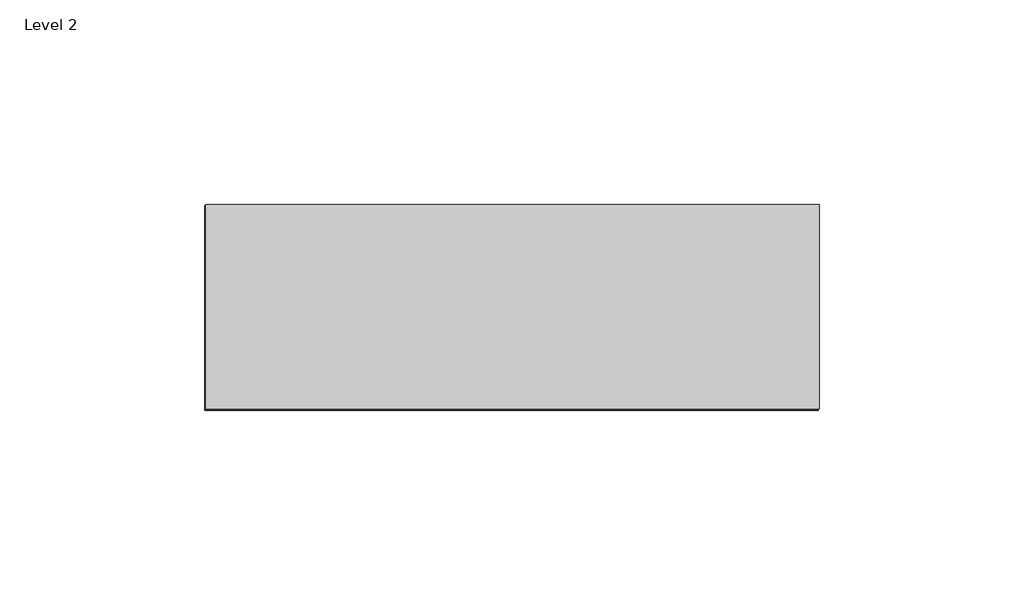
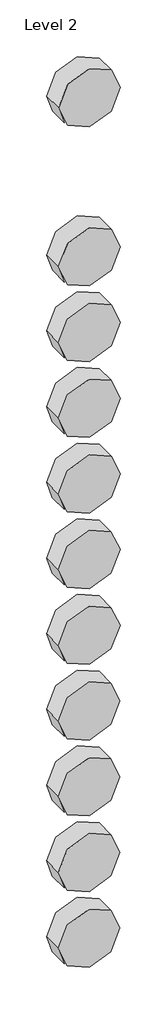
# One storey: 11 proxies.
"""IFC4 building model written with IfcOpenShell, lengths in millimetres."""

import ifcopenshell
import ifcopenshell.guid

model = None  # the IFC model being written
_history = None  # IfcOwnerHistory: only IFC2X3 demands one
_inside = {}  # id of a spatial element -> (the spatial element, [elements in it])
_under = {}  # id of a project, library or spatial element -> (it, [spatial elements below it])
_declared = {}  # id of a project -> (the project, [libraries it declares])
_typed = {}  # id of a type object -> (the type object, [elements of that type])
_made_of = {}  # id of a material, layer set ... -> (it, [elements and type objects made of it])


def new_model(schema):
    """Start an empty IFC model of exactly this schema.

    Asked for "IFC4X3", IfcOpenShell would pick the latest addendum, in which some entities
    have other attributes; the version numbers below select the first issue.
    IFC2X3 requires an IfcOwnerHistory on every rooted entity: one is made here for all.
    """
    global model, _history
    if schema == "IFC4X3":
        model = ifcopenshell.file(schema_version=(4, 3, 0, 0))
    else:
        model = ifcopenshell.file(schema=schema)
    _inside.clear()
    _under.clear()
    _declared.clear()
    _typed.clear()
    _made_of.clear()
    _history = None
    if model.schema == "IFC2X3":
        org = make("IfcOrganization", Name="unknown")
        user = make(
            "IfcPersonAndOrganization",
            ThePerson=make("IfcPerson", FamilyName="unknown"),
            TheOrganization=org,
        )
        app = make(
            "IfcApplication",
            ApplicationDeveloper=org,
            Version="unknown",
            ApplicationFullName="unknown",
            ApplicationIdentifier="unknown",
        )
        _history = make(
            "IfcOwnerHistory",
            OwningUser=user,
            OwningApplication=app,
            ChangeAction="ADDED",
            CreationDate=0,
        )
    return model


def make(cls, **values):
    """One entity of the class cls with the attributes given. An attribute that is None is left unset."""
    return model.create_entity(
        cls, **{name: value for name, value in values.items() if value is not None}
    )


def rooted(cls, **values):
    """An entity with a GlobalId (a new one), such as an element, a storey or a relation."""
    return make(cls, GlobalId=ifcopenshell.guid.new(), OwnerHistory=_history, **values)


def si_unit(unit_type, name, prefix=None):
    """IfcSIUnit, for example si_unit("LENGTHUNIT", "METRE", prefix="MILLI")."""
    return make("IfcSIUnit", UnitType=unit_type, Prefix=prefix, Name=name)


def assignment(units):
    """IfcUnitAssignment: the units of a project."""
    return None if units is None else make("IfcUnitAssignment", Units=units)


def point(xyz):
    """IfcCartesianPoint."""
    return None if xyz is None else make("IfcCartesianPoint", Coordinates=xyz)


def direction(xyz):
    """IfcDirection."""
    return None if xyz is None else make("IfcDirection", DirectionRatios=xyz)


def frame(location, z_axis=None, x_axis=None):
    """IfcAxis2Placement3D, a coordinate frame: its origin and axes. An axis left out is left unset."""
    return make(
        "IfcAxis2Placement3D",
        Location=point(location),
        Axis=direction(z_axis),
        RefDirection=direction(x_axis),
    )


def frame_2d(location, x_axis=None):
    """IfcAxis2Placement2D, a coordinate frame in the plane: its origin and x axis."""
    return make(
        "IfcAxis2Placement2D", Location=point(location), RefDirection=direction(x_axis)
    )


def origin():
    """The frame at (0, 0, 0) with its axes left unset."""
    return frame((0.0, 0.0, 0.0))


def place(relative_to, where):
    """IfcLocalPlacement: puts the frame where relative to a parent placement (None: the world)."""
    return make(
        "IfcLocalPlacement", PlacementRelTo=relative_to, RelativePlacement=where
    )


def context(
    kind, dimensions, precision=None, world=None, true_north=None, identifier=None
):
    """IfcGeometricRepresentationContext, for example the 3D "Model" context."""
    return make(
        "IfcGeometricRepresentationContext",
        ContextIdentifier=identifier,
        ContextType=kind,
        CoordinateSpaceDimension=dimensions,
        Precision=precision,
        WorldCoordinateSystem=world,
        TrueNorth=true_north,
    )


def project(units=None, contexts=None):
    """IfcProject with its units and contexts."""
    return rooted(
        "IfcProject",
        Name="project",
        RepresentationContexts=contexts,
        UnitsInContext=assignment(units),
    )


def spatial(cls, under=None, at=None, **own):
    """A site, building, storey or space (cls), placed at a placement, below another one or the project."""
    s = rooted(cls, ObjectPlacement=at, **own)
    if under is not None:
        _under.setdefault(under.id(), (under, []))[1].append(s)
    return s


def circle_curve(where, radius):
    """IfcCircle in the frame where."""
    return make("IfcCircle", Position=where, Radius=radius)


def trimmed(basis, trim1, trim2, sense, master):
    """IfcTrimmedCurve: the piece of a basis curve between two trims."""
    return make(
        "IfcTrimmedCurve",
        BasisCurve=basis,
        Trim1=trim1,
        Trim2=trim2,
        SenseAgreement=sense,
        MasterRepresentation=master,
    )


def segment(curve, same_sense, transition):
    """IfcCompositeCurveSegment."""
    return make(
        "IfcCompositeCurveSegment",
        Transition=transition,
        SameSense=same_sense,
        ParentCurve=curve,
    )


def composite_curve(segments, self_intersect=None):
    """IfcCompositeCurve: segments joined end to end."""
    return make("IfcCompositeCurve", Segments=segments, SelfIntersect=self_intersect)


def outline(outer, holes=None, kind="AREA"):
    """IfcArbitraryClosedProfileDef: a profile drawn as a closed curve; with holes, ...WithVoids."""
    if holes is None:
        return make("IfcArbitraryClosedProfileDef", ProfileType=kind, OuterCurve=outer)
    return make(
        "IfcArbitraryProfileDefWithVoids",
        ProfileType=kind,
        OuterCurve=outer,
        InnerCurves=holes,
    )


def extrude(swept, where, along, depth):
    """IfcExtrudedAreaSolid: the profile swept, set in the frame where, extruded along a direction by depth."""
    return make(
        "IfcExtrudedAreaSolid",
        SweptArea=swept,
        Position=where,
        ExtrudedDirection=direction(along),
        Depth=depth,
    )


def shape(context_of_items, identifier, shape_type, items):
    """IfcShapeRepresentation: the items that make up one representation, for example the "Body"."""
    return make(
        "IfcShapeRepresentation",
        ContextOfItems=context_of_items,
        RepresentationIdentifier=identifier,
        RepresentationType=shape_type,
        Items=items,
    )


def source(mapping_origin, context_of_items, identifier, shape_type, items):
    """IfcRepresentationMap: a shape defined once, which mapped items show again and again."""
    return make(
        "IfcRepresentationMap",
        MappingOrigin=mapping_origin,
        MappedRepresentation=shape(context_of_items, identifier, shape_type, items),
    )


def transform(
    local_origin,
    x_axis=None,
    y_axis=None,
    z_axis=None,
    scale=None,
    scale2=None,
    scale3=None,
    uniform=True,
):
    """IfcCartesianTransformationOperator3D, or its non-uniform kind. x_axis, y_axis, z_axis: its Axis1, 2, 3."""
    if uniform:
        return make(
            "IfcCartesianTransformationOperator3D",
            Axis1=direction(x_axis),
            Axis2=direction(y_axis),
            LocalOrigin=point(local_origin),
            Scale=scale,
            Axis3=direction(z_axis),
        )
    return make(
        "IfcCartesianTransformationOperator3DnonUniform",
        Axis1=direction(x_axis),
        Axis2=direction(y_axis),
        LocalOrigin=point(local_origin),
        Scale=scale,
        Axis3=direction(z_axis),
        Scale2=scale2,
        Scale3=scale3,
    )


def mapped(mapping_source, mapping_target):
    """IfcMappedItem: shows the shape of a source again, moved by a transform."""
    return make(
        "IfcMappedItem", MappingSource=mapping_source, MappingTarget=mapping_target
    )


def made_of(thing, what):
    """Note that an element or type object is made of a material, layer set ...; save() writes the relation."""
    if what is not None:
        _made_of.setdefault(what.id(), (what, []))[1].append(thing)
    return thing


def element(
    cls,
    number,
    at=None,
    inside=None,
    cuts=None,
    type_object=None,
    material=None,
    context=None,
    identifier="Body",
    shape_type=None,
    held_by="IfcProductDefinitionShape",
    body=None,
    shapes=None,
    **own,
):
    """One element of the class cls, such as IfcWall. Its Tag is "e" and its number.

    at: its placement. inside: the storey or other place that contains it. cuts: it is an
    opening in that element (IfcRelVoidsElement). A single representation is given by context,
    identifier, shape_type and body (its items); several are given by shapes. held_by: the class
    of the entity that holds the representations. save() writes the other relations.
    """
    e = rooted(cls, Tag="e%d" % number, ObjectPlacement=at, **own)
    if body is not None:
        shapes = [shape(context, identifier, shape_type, body)]
    if shapes is not None:
        e.Representation = make(held_by, Representations=shapes)
    if inside is not None:
        _inside.setdefault(inside.id(), (inside, []))[1].append(e)
    if cuts is not None:
        rooted(
            "IfcRelVoidsElement", RelatingBuildingElement=cuts, RelatedOpeningElement=e
        )
    if type_object is not None:
        _typed.setdefault(type_object.id(), (type_object, []))[1].append(e)
    return made_of(e, material)


def aggregate(whole, parts):
    """IfcRelAggregates: a whole, such as a stair, and the parts it consists of."""
    return rooted("IfcRelAggregates", RelatingObject=whole, RelatedObjects=parts)


def save(model, path):
    """Write the relations noted so far, then the file.

    IfcRelAggregates (storeys below a building ...), IfcRelContainedInSpatialStructure (elements
    in a storey), IfcRelDefinesByType, IfcRelAssociatesMaterial and IfcRelDeclares: one each for
    every whole, place, type object, material and project.
    """
    for whole, parts in _under.values():
        aggregate(whole, parts)
    for where, things in _inside.values():
        rooted(
            "IfcRelContainedInSpatialStructure",
            RelatedElements=things,
            RelatingStructure=where,
        )
    for kind, things in _typed.values():
        rooted("IfcRelDefinesByType", RelatedObjects=things, RelatingType=kind)
    for what, things in _made_of.values():
        rooted("IfcRelAssociatesMaterial", RelatedObjects=things, RelatingMaterial=what)
    for by, libraries in _declared.values():
        rooted("IfcRelDeclares", RelatingContext=by, RelatedDefinitions=libraries)
    model.write(path)


def materialmodel_materialmodel_17b3a4fc(model_context):
    return source(origin(), model_context, "Body", "SweptSolid", [
        extrude(outline(composite_curve([segment(trimmed(circle_curve(frame_2d((300.0, 0.0)), 75.0), [point((300.0, -75.0))], [point((300.0, 75.0))], False, "CARTESIAN"), True, "CONTINUOUS"), segment(trimmed(circle_curve(frame_2d((300.0, 0.0)), 75.0), [point((300.0, 75.0))], [point((300.0, -75.0))], False, "CARTESIAN"), True, "CONTINUOUS")], self_intersect=False)), frame((0.0, -50.0, 0.0), z_axis=(0.0, 1.0, 0.0), x_axis=(0.0, 0.0, 1.0)), (0.0, 0.0, 1.0), 50.0),
    ])


model = new_model("IFC4")

# Units and contexts
model_context = context("Model", 3, world=origin())
ifc_project = project(units=[si_unit("LENGTHUNIT", "METRE", prefix="MILLI")], contexts=[model_context])

# Site, building, storey
site = spatial("IfcSite", under=ifc_project)
building = spatial("IfcBuilding", under=site)
storey = spatial("IfcBuildingStorey", under=building, Name="Level 2", Elevation=4000.0)

# Proxies
placement = place(None, origin())
materialmodel_materialmodel_shape = materialmodel_materialmodel_17b3a4fc(model_context)
element("IfcBuildingElementProxy", 1, Name="MaterialModel : MaterialModel", ObjectType="MaterialModel : MaterialModel", at=placement, inside=storey, context=model_context, shape_type="MappedRepresentation", body=[
    mapped(materialmodel_materialmodel_shape, transform((-5560.1325632, 2209.4764129, 1472.8549526), x_axis=(1.0, 0.0, 0.0), y_axis=(0.0, 1.0, 0.0), z_axis=(0.0, 0.0, 1.0))),
])
element("IfcBuildingElementProxy", 2, Name="MaterialModel : MaterialModel", ObjectType="MaterialModel : MaterialModel", at=placement, inside=storey, context=model_context, shape_type="MappedRepresentation", body=[
    mapped(materialmodel_materialmodel_shape, transform((-5560.2216872, 2209.4764129, 1062.9437314), x_axis=(1.0, 0.0, 0.0), y_axis=(0.0, 1.0, 0.0), z_axis=(0.0, 0.0, 1.0))),
])
element("IfcBuildingElementProxy", 3, Name="MaterialModel : MaterialModel", ObjectType="MaterialModel : MaterialModel", at=placement, inside=storey, context=model_context, shape_type="MappedRepresentation", body=[
    mapped(materialmodel_materialmodel_shape, transform((-5560.2513951, 2209.4764129, 867.9733243), x_axis=(1.0, 0.0, 0.0), y_axis=(0.0, 1.0, 0.0), z_axis=(0.0, 0.0, 1.0))),
])
element("IfcBuildingElementProxy", 4, Name="MaterialModel : MaterialModel", ObjectType="MaterialModel : MaterialModel", at=placement, inside=storey, context=model_context, shape_type="MappedRepresentation", body=[
    mapped(materialmodel_materialmodel_shape, transform((-5560.2811031, 2209.4764129, 673.0029172), x_axis=(1.0, 0.0, 0.0), y_axis=(0.0, 1.0, 0.0), z_axis=(0.0, 0.0, 1.0))),
])
element("IfcBuildingElementProxy", 5, Name="MaterialModel : MaterialModel", ObjectType="MaterialModel : MaterialModel", at=placement, inside=storey, context=model_context, shape_type="MappedRepresentation", body=[
    mapped(materialmodel_materialmodel_shape, transform((-5560.3108111, 2209.4764129, 478.0325101), x_axis=(1.0, 0.0, 0.0), y_axis=(0.0, 1.0, 0.0), z_axis=(0.0, 0.0, 1.0))),
])
element("IfcBuildingElementProxy", 6, Name="MaterialModel : MaterialModel", ObjectType="MaterialModel : MaterialModel", at=placement, inside=storey, context=model_context, shape_type="MappedRepresentation", body=[
    mapped(materialmodel_materialmodel_shape, transform((-5560.3405191, 2209.4764129, 283.0621031), x_axis=(1.0, 0.0, 0.0), y_axis=(0.0, 1.0, 0.0), z_axis=(0.0, 0.0, 1.0))),
])
element("IfcBuildingElementProxy", 7, Name="MaterialModel : MaterialModel", ObjectType="MaterialModel : MaterialModel", at=placement, inside=storey, context=model_context, shape_type="MappedRepresentation", body=[
    mapped(materialmodel_materialmodel_shape, transform((-5560.3702271, 2209.4764129, 88.091696), x_axis=(1.0, 0.0, 0.0), y_axis=(0.0, 1.0, 0.0), z_axis=(0.0, 0.0, 1.0))),
])
element("IfcBuildingElementProxy", 8, Name="MaterialModel : MaterialModel", ObjectType="MaterialModel : MaterialModel", at=placement, inside=storey, context=model_context, shape_type="MappedRepresentation", body=[
    mapped(materialmodel_materialmodel_shape, transform((-5560.3999351, 2209.4764129, -106.8787111), x_axis=(1.0, 0.0, 0.0), y_axis=(0.0, 1.0, 0.0), z_axis=(0.0, 0.0, 1.0))),
])
element("IfcBuildingElementProxy", 9, Name="MaterialModel : MaterialModel", ObjectType="MaterialModel : MaterialModel", at=placement, inside=storey, context=model_context, shape_type="MappedRepresentation", body=[
    mapped(materialmodel_materialmodel_shape, transform((-5560.4591553, 2209.4764129, -301.8492924), x_axis=(1.0, 0.0, 0.0), y_axis=(0.0, 1.0, 0.0), z_axis=(0.0, 0.0, 1.0))),
])
element("IfcBuildingElementProxy", 10, Name="MaterialModel : MaterialModel", ObjectType="MaterialModel : MaterialModel", at=placement, inside=storey, context=model_context, shape_type="MappedRepresentation", body=[
    mapped(materialmodel_materialmodel_shape, transform((-5560.4593511, 2209.4764129, -496.8195253), x_axis=(1.0, 0.0, 0.0), y_axis=(0.0, 1.0, 0.0), z_axis=(0.0, 0.0, 1.0))),
])
element("IfcBuildingElementProxy", 11, Name="MaterialModel : MaterialModel", ObjectType="MaterialModel : MaterialModel", at=placement, inside=storey, context=model_context, shape_type="MappedRepresentation", body=[
    mapped(materialmodel_materialmodel_shape, transform((-5560.4571978, 2209.4764129, -691.7897443), x_axis=(1.0, 0.0, 0.0), y_axis=(0.0, 1.0, 0.0), z_axis=(0.0, 0.0, 1.0))),
])

save(model, "model.ifc")
